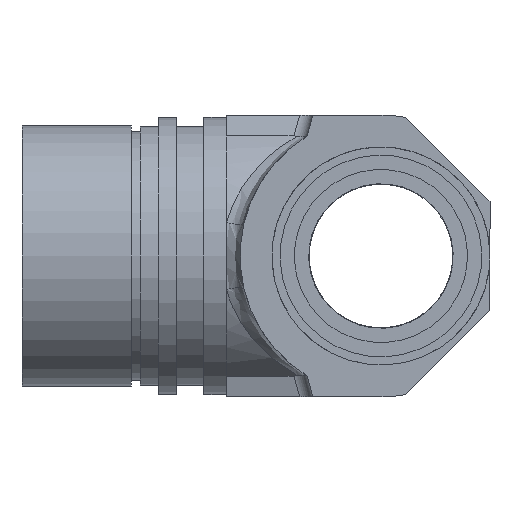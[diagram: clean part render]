
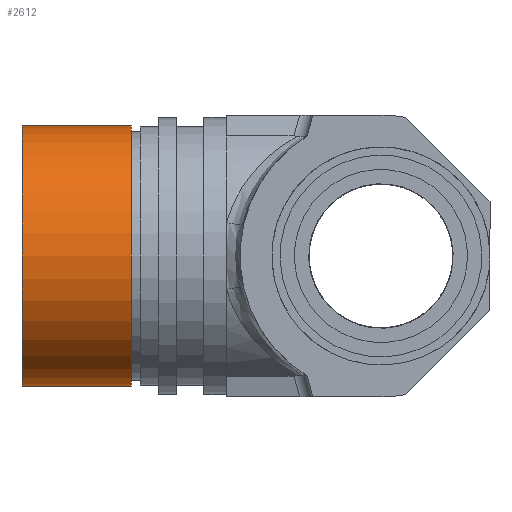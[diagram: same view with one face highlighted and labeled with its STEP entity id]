
A CAD part, left-side view. The second image highlights one B-rep face of the part: STEP entity #2612.
In plain terms, the highlighted cylindrical face has radius 14.325 mm (diameter 28.65 mm), a full revolution.
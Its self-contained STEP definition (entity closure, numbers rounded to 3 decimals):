
#189 = EDGE_LOOP ( 'NONE', ( #434 ) ) ;
#190 = EDGE_LOOP ( 'NONE', ( #443 ) ) ;
#434 = ORIENTED_EDGE ( 'NONE', *, *, #2724, .T. ) ;
#443 = ORIENTED_EDGE ( 'NONE', *, *, #2716, .F. ) ;
#927 = CIRCLE ( 'NONE', #1429, 14.325 ) ;
#946 = CIRCLE ( 'NONE', #1443, 14.325 ) ;
#1318 = FACE_OUTER_BOUND ( 'NONE', #190, .T. ) ;
#1320 = FACE_OUTER_BOUND ( 'NONE', #189, .T. ) ;
#1324 = AXIS2_PLACEMENT_3D ( 'NONE', #1870, #1871, #1872 ) ;
#1325 = CYLINDRICAL_SURFACE ( 'NONE', #1324, 14.325 ) ;
#1429 = AXIS2_PLACEMENT_3D ( 'NONE', #2222, #2238, #2239 ) ;
#1443 = AXIS2_PLACEMENT_3D ( 'NONE', #2261, #2262, #2263 ) ;
#1870 = CARTESIAN_POINT ( 'NONE',  ( 0., 60., 0. ) ) ;
#1871 = DIRECTION ( 'NONE',  ( 0., 1., 0. ) ) ;
#1872 = DIRECTION ( 'NONE',  ( 0., 0., 1. ) ) ;
#2222 = CARTESIAN_POINT ( 'NONE',  ( 0., 39.5, 0. ) ) ;
#2238 = DIRECTION ( 'NONE',  ( 0., 1., 0. ) ) ;
#2239 = DIRECTION ( 'NONE',  ( 0., 0., 1. ) ) ;
#2261 = CARTESIAN_POINT ( 'NONE',  ( 0., 27.5, 0. ) ) ;
#2262 = DIRECTION ( 'NONE',  ( 0., 1., 0. ) ) ;
#2263 = DIRECTION ( 'NONE',  ( 0., 0., 1. ) ) ;
#2441 = VERTEX_POINT ( 'NONE', #2442 ) ;
#2442 = CARTESIAN_POINT ( 'NONE',  ( 0., 39.5, 14.325 ) ) ;
#2457 = VERTEX_POINT ( 'NONE', #2458 ) ;
#2458 = CARTESIAN_POINT ( 'NONE',  ( 0., 27.5, 14.325 ) ) ;
#2612 = ADVANCED_FACE ( 'NONE', ( #1320, #1318 ), #1325, .T. ) ;
#2716 = EDGE_CURVE ( 'NONE', #2441, #2441, #927, .T. ) ;
#2724 = EDGE_CURVE ( 'NONE', #2457, #2457, #946, .T. ) ;
